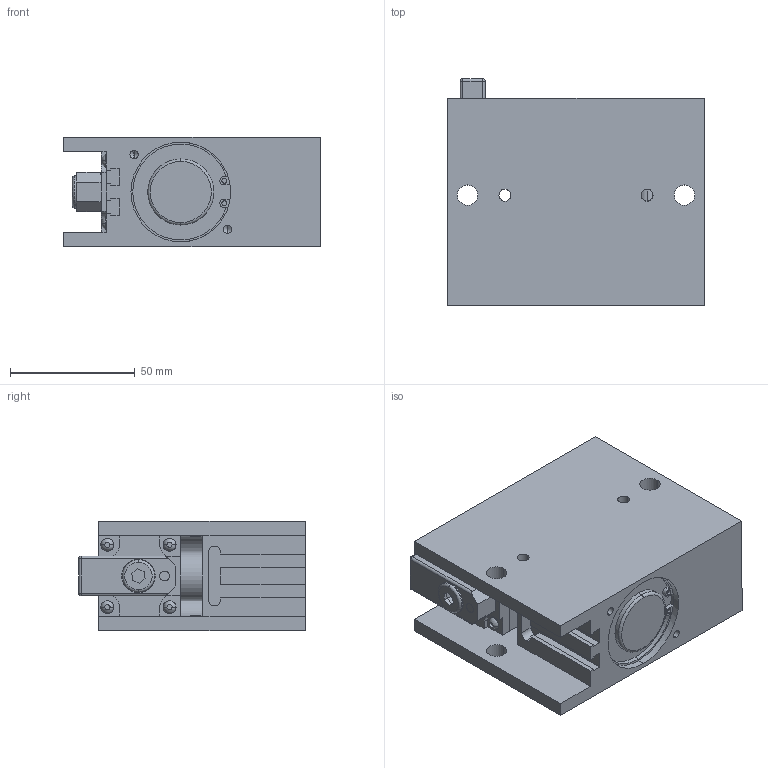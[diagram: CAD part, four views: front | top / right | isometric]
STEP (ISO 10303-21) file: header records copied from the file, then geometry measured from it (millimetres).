
FILE_DESCRIPTION (( 'STEP AP203' ), '1' );
FILE_NAME ('DBS-140-08-EW-E.STEP', '2017-02-07T13:37:57', ( 'test' ), ( '' ), 'SwSTEP 2.0', 'SolidWorks 2016', '' );
FILE_SCHEMA (( 'CONFIG_CONTROL_DESIGN' ));
Length unit declared in the file: millimetre
Products named in the file (1): DBS-140-08-EW-E
Bounding box: 103 x 91 x 44 mm (x, y, z)
Volume: 304395 mm3; surface area: 65483.3 mm2
Topology: 6 solids, 6 shells, 271 faces, 671 edges, 433 vertices
Faces by surface type: plane 140, cylinder 99, torus 14, sphere 12, cone 6
Entity records: 8190 total; most frequent: DIRECTION 1481, CARTESIAN_POINT 1446, ORIENTED_EDGE 1322, EDGE_CURVE 661, AXIS2_PLACEMENT_3D 556, VERTEX_POINT 433, LINE 369, VECTOR 369
